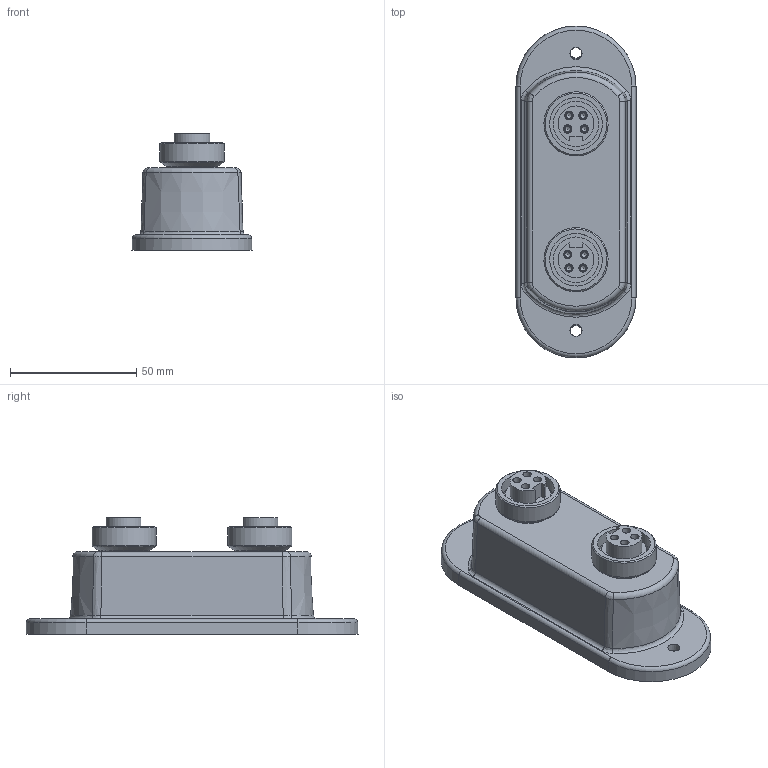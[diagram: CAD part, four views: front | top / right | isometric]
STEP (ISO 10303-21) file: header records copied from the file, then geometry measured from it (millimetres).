
FILE_DESCRIPTION((''),'2;1');
FILE_NAME('C:\TurckZip\BCA-49-M223.stp','2007-04-16T09:44:38',('IKOROL'),(''),'Autodesk Inventor 11','Autodesk Inventor 11','');
FILE_SCHEMA(('AUTOMOTIVE_DESIGN { 1 0 10303 214 1 1 1 1 }'));
Length unit declared in the file: millimetre
Products named in the file (1): Part8
Bounding box: 47.5 x 131.35 x 46.27 mm (x, y, z)
Volume: 91121 mm3; surface area: 44914.3 mm2
Topology: 1 solids, 26 shells, 1244 faces, 3011 edges, 1875 vertices
Faces by surface type: plane 840, cylinder 236, cone 79, bspline 47, sphere 32, torus 10
Full cylindrical faces by diameter (mm): 0.813 x1, 0.965 x4, 1.905 x8, 2.155 x8, 2.25 x8, 2.85 x8, 3.2 x8, 3.25 x16, 3.3 x8, 4.75 x2, 14 x4, 14.2 x4, 18 x2, 20 x2, 20.1 x2, 20.84 x2, 22.5 x2, 25.4 x2
Entity records: 36305 total; most frequent: CARTESIAN_POINT 7690, DIRECTION 5940, ORIENTED_EDGE 5624, EDGE_CURVE 2812, AXIS2_PLACEMENT_3D 2020, VECTOR 1900, LINE 1900, VERTEX_POINT 1822
